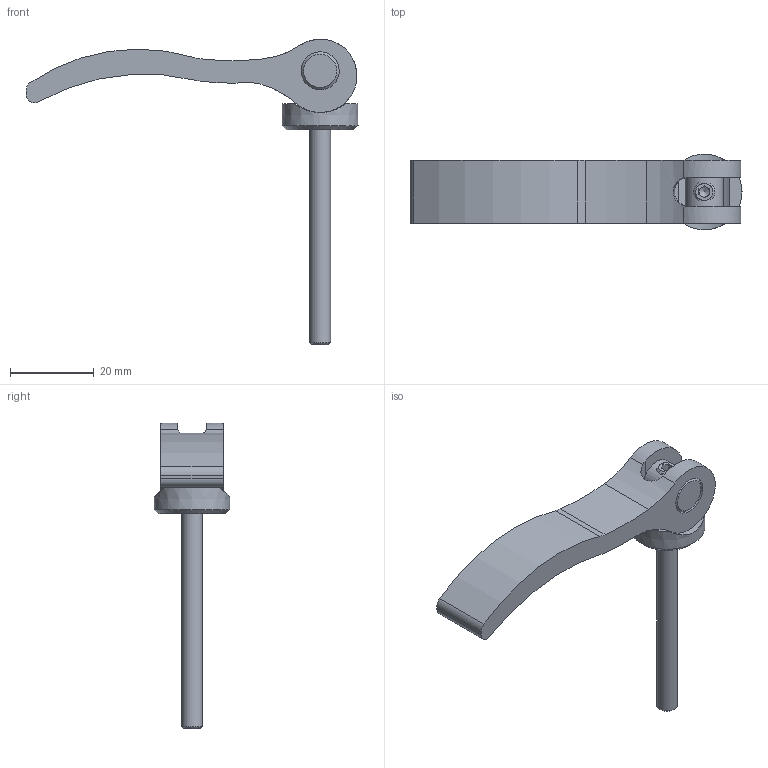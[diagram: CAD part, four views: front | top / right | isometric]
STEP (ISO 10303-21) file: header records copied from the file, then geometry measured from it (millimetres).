
FILE_DESCRIPTION(('STEP AP203'), '1');
FILE_NAME('À00360.11790520 _ Ýêñöåíòðèê 79 ìì', '', ('UNSPECIFIED'), ('UNSPECIFIED'), 'C3D Converter', 'C3D Toolkit', '');
FILE_SCHEMA(('CONFIG_CONTROL_DESIGN'));
Length unit declared in the file: millimetre
Products named in the file (5): А00360.79.03; А00360.79.02; А00360.79.01
Assembly tree (4 placements, depth 2):
  (unnamed)
    А00360.79.03
    А00360.79.02
    А00360.79.01
    (unnamed)
Bounding box: 79.33 x 18.07 x 73 mm (x, y, z)
Volume: 10383.8 mm3; surface area: 6675 mm2
Topology: 4 solids, 4 shells, 52 faces, 128 edges, 82 vertices
Faces by surface type: plane 24, cylinder 21, cone 7
Full cylindrical faces by diameter (mm): 4.134 x1, 5 x1, 6.6 x1, 9.1 x3
Entity records: 2375 total; most frequent: CARTESIAN_POINT 907, DIRECTION 269, ORIENTED_EDGE 228, EDGE_CURVE 114, AXIS2_PLACEMENT_3D 111, VERTEX_POINT 81, EDGE_LOOP 71, FACE_BOUND 54
